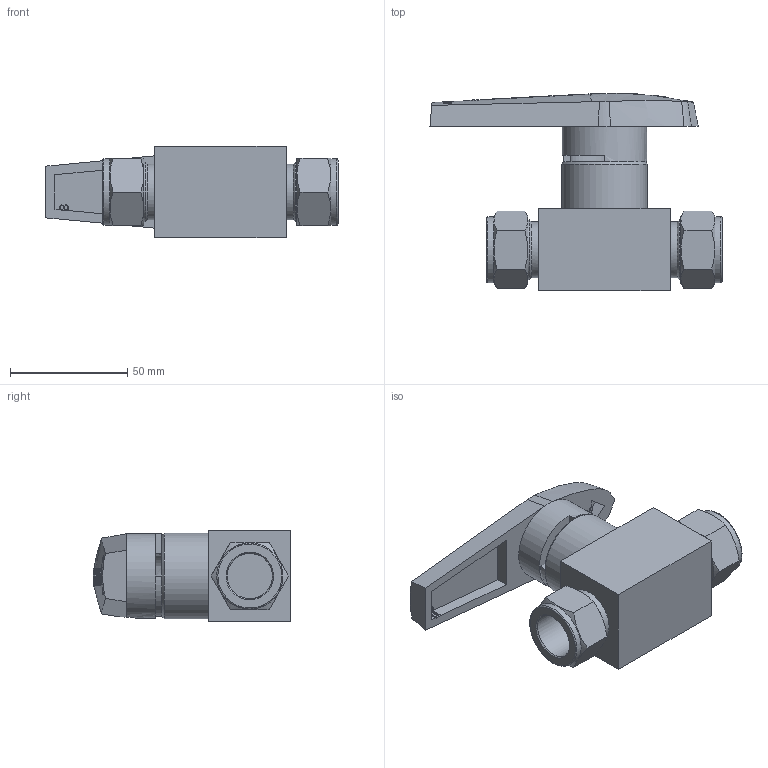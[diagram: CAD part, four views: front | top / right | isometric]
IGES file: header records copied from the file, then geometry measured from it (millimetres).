
Global section: file name: SBV120H4-S12-S316; native system: Autodesk Inventor 2016; preprocessor: unknown; author: 이승민,,11,0; organization: 20161215.102519; date: 20161216.190650; units: millimetre
Bounding box: 124.42 x 84.28 x 39 mm (x, y, z)
Volume: 140006 mm3; surface area: 35943.4 mm2
Topology: 2 solids, 3 shells, 435 faces, 1239 edges, 827 vertices
Faces by surface type: bspline 435
